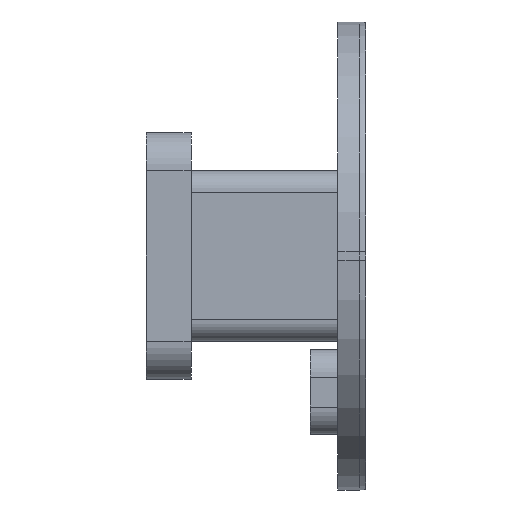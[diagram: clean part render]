
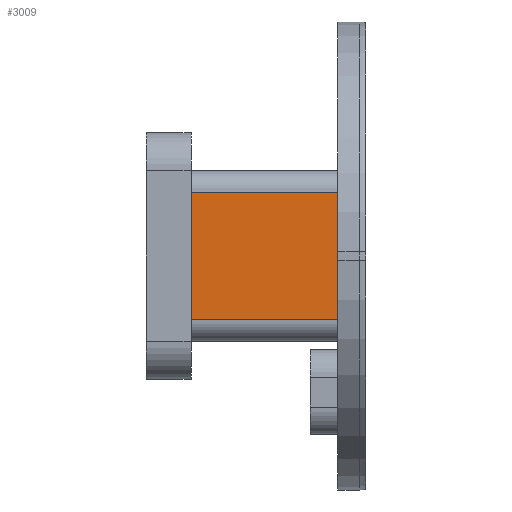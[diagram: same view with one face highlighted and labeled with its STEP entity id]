
A CAD part, front view. The second image highlights one B-rep face of the part: STEP entity #3009.
In plain terms, the highlighted planar face has unit normal (0, -1, 0).
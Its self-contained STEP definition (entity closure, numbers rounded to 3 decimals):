
#186 = PLANE('',#187);
#187 = AXIS2_PLACEMENT_3D('',#188,#189,#190);
#188 = CARTESIAN_POINT('',(39.3,-6.,-12.));
#189 = DIRECTION('',(-1.,0.,0.));
#190 = DIRECTION('',(0.,0.,1.));
#1394 = VERTEX_POINT('',#1395);
#1395 = CARTESIAN_POINT('',(39.3,-13.4,-10.5));
#1414 = CYLINDRICAL_SURFACE('',#1415,0.5);
#1415 = AXIS2_PLACEMENT_3D('',#1416,#1417,#1418);
#1416 = CARTESIAN_POINT('',(39.5,-12.9,-10.5));
#1417 = DIRECTION('',(-1.,0.,0.));
#1418 = DIRECTION('',(0.,-1.,0.));
#1426 = EDGE_CURVE('',#1394,#1427,#1429,.T.);
#1427 = VERTEX_POINT('',#1428);
#1428 = CARTESIAN_POINT('',(39.3,-13.4,-13.5));
#1429 = SURFACE_CURVE('',#1430,(#1434,#1441),.PCURVE_S1.);
#1430 = LINE('',#1431,#1432);
#1431 = CARTESIAN_POINT('',(39.3,-13.4,-12.75));
#1432 = VECTOR('',#1433,1.);
#1433 = DIRECTION('',(0.,0.,-1.));
#1434 = PCURVE('',#186,#1435);
#1435 = DEFINITIONAL_REPRESENTATION('',(#1436),#1440);
#1436 = LINE('',#1437,#1438);
#1437 = CARTESIAN_POINT('',(-0.75,-7.4));
#1438 = VECTOR('',#1439,1.);
#1439 = DIRECTION('',(-1.,0.));
#1440 = ( GEOMETRIC_REPRESENTATION_CONTEXT(2) 
PARAMETRIC_REPRESENTATION_CONTEXT() REPRESENTATION_CONTEXT('2D SPACE',''
  ) );
#1441 = PCURVE('',#1442,#1447);
#1442 = PLANE('',#1443);
#1443 = AXIS2_PLACEMENT_3D('',#1444,#1445,#1446);
#1444 = CARTESIAN_POINT('',(39.5,-13.4,-13.5));
#1445 = DIRECTION('',(0.,-1.,0.));
#1446 = DIRECTION('',(0.,0.,1.));
#1447 = DEFINITIONAL_REPRESENTATION('',(#1448),#1452);
#1448 = LINE('',#1449,#1450);
#1449 = CARTESIAN_POINT('',(0.75,0.2));
#1450 = VECTOR('',#1451,1.);
#1451 = DIRECTION('',(-1.,0.));
#1452 = ( GEOMETRIC_REPRESENTATION_CONTEXT(2) 
PARAMETRIC_REPRESENTATION_CONTEXT() REPRESENTATION_CONTEXT('2D SPACE',''
  ) );
#1473 = CYLINDRICAL_SURFACE('',#1474,0.5);
#1474 = AXIS2_PLACEMENT_3D('',#1475,#1476,#1477);
#1475 = CARTESIAN_POINT('',(39.5,-12.9,-13.5));
#1476 = DIRECTION('',(-1.,0.,0.));
#1477 = DIRECTION('',(0.,0.,-1.));
#2695 = PLANE('',#2696);
#2696 = AXIS2_PLACEMENT_3D('',#2697,#2698,#2699);
#2697 = CARTESIAN_POINT('',(35.85,-12.8,-12.));
#2698 = DIRECTION('',(-1.,0.,0.));
#2699 = DIRECTION('',(0.,0.,1.));
#2960 = VERTEX_POINT('',#2961);
#2961 = CARTESIAN_POINT('',(35.85,-13.4,-10.5));
#2987 = EDGE_CURVE('',#1394,#2960,#2988,.T.);
#2988 = SURFACE_CURVE('',#2989,(#2993,#3000),.PCURVE_S1.);
#2989 = LINE('',#2990,#2991);
#2990 = CARTESIAN_POINT('',(39.5,-13.4,-10.5));
#2991 = VECTOR('',#2992,1.);
#2992 = DIRECTION('',(-1.,0.,0.));
#2993 = PCURVE('',#1414,#2994);
#2994 = DEFINITIONAL_REPRESENTATION('',(#2995),#2999);
#2995 = LINE('',#2996,#2997);
#2996 = CARTESIAN_POINT('',(0.,0.));
#2997 = VECTOR('',#2998,1.);
#2998 = DIRECTION('',(0.,1.));
#2999 = ( GEOMETRIC_REPRESENTATION_CONTEXT(2) 
PARAMETRIC_REPRESENTATION_CONTEXT() REPRESENTATION_CONTEXT('2D SPACE',''
  ) );
#3000 = PCURVE('',#1442,#3001);
#3001 = DEFINITIONAL_REPRESENTATION('',(#3002),#3006);
#3002 = LINE('',#3003,#3004);
#3003 = CARTESIAN_POINT('',(3.,0.));
#3004 = VECTOR('',#3005,1.);
#3005 = DIRECTION('',(0.,1.));
#3006 = ( GEOMETRIC_REPRESENTATION_CONTEXT(2) 
PARAMETRIC_REPRESENTATION_CONTEXT() REPRESENTATION_CONTEXT('2D SPACE',''
  ) );
#3009 = ADVANCED_FACE('',(#3010),#1442,.T.);
#3010 = FACE_BOUND('',#3011,.T.);
#3011 = EDGE_LOOP('',(#3012,#3035,#3056,#3057));
#3012 = ORIENTED_EDGE('',*,*,#3013,.T.);
#3013 = EDGE_CURVE('',#2960,#3014,#3016,.T.);
#3014 = VERTEX_POINT('',#3015);
#3015 = CARTESIAN_POINT('',(35.85,-13.4,-13.5));
#3016 = SURFACE_CURVE('',#3017,(#3021,#3028),.PCURVE_S1.);
#3017 = LINE('',#3018,#3019);
#3018 = CARTESIAN_POINT('',(35.85,-13.4,-12.75));
#3019 = VECTOR('',#3020,1.);
#3020 = DIRECTION('',(0.,0.,-1.));
#3021 = PCURVE('',#1442,#3022);
#3022 = DEFINITIONAL_REPRESENTATION('',(#3023),#3027);
#3023 = LINE('',#3024,#3025);
#3024 = CARTESIAN_POINT('',(0.75,3.65));
#3025 = VECTOR('',#3026,1.);
#3026 = DIRECTION('',(-1.,0.));
#3027 = ( GEOMETRIC_REPRESENTATION_CONTEXT(2) 
PARAMETRIC_REPRESENTATION_CONTEXT() REPRESENTATION_CONTEXT('2D SPACE',''
  ) );
#3028 = PCURVE('',#2695,#3029);
#3029 = DEFINITIONAL_REPRESENTATION('',(#3030),#3034);
#3030 = LINE('',#3031,#3032);
#3031 = CARTESIAN_POINT('',(-0.75,-0.6));
#3032 = VECTOR('',#3033,1.);
#3033 = DIRECTION('',(-1.,0.));
#3034 = ( GEOMETRIC_REPRESENTATION_CONTEXT(2) 
PARAMETRIC_REPRESENTATION_CONTEXT() REPRESENTATION_CONTEXT('2D SPACE',''
  ) );
#3035 = ORIENTED_EDGE('',*,*,#3036,.F.);
#3036 = EDGE_CURVE('',#1427,#3014,#3037,.T.);
#3037 = SURFACE_CURVE('',#3038,(#3042,#3049),.PCURVE_S1.);
#3038 = LINE('',#3039,#3040);
#3039 = CARTESIAN_POINT('',(39.5,-13.4,-13.5));
#3040 = VECTOR('',#3041,1.);
#3041 = DIRECTION('',(-1.,0.,0.));
#3042 = PCURVE('',#1442,#3043);
#3043 = DEFINITIONAL_REPRESENTATION('',(#3044),#3048);
#3044 = LINE('',#3045,#3046);
#3045 = CARTESIAN_POINT('',(0.,0.));
#3046 = VECTOR('',#3047,1.);
#3047 = DIRECTION('',(0.,1.));
#3048 = ( GEOMETRIC_REPRESENTATION_CONTEXT(2) 
PARAMETRIC_REPRESENTATION_CONTEXT() REPRESENTATION_CONTEXT('2D SPACE',''
  ) );
#3049 = PCURVE('',#1473,#3050);
#3050 = DEFINITIONAL_REPRESENTATION('',(#3051),#3055);
#3051 = LINE('',#3052,#3053);
#3052 = CARTESIAN_POINT('',(1.571,0.));
#3053 = VECTOR('',#3054,1.);
#3054 = DIRECTION('',(0.,1.));
#3055 = ( GEOMETRIC_REPRESENTATION_CONTEXT(2) 
PARAMETRIC_REPRESENTATION_CONTEXT() REPRESENTATION_CONTEXT('2D SPACE',''
  ) );
#3056 = ORIENTED_EDGE('',*,*,#1426,.F.);
#3057 = ORIENTED_EDGE('',*,*,#2987,.T.);
